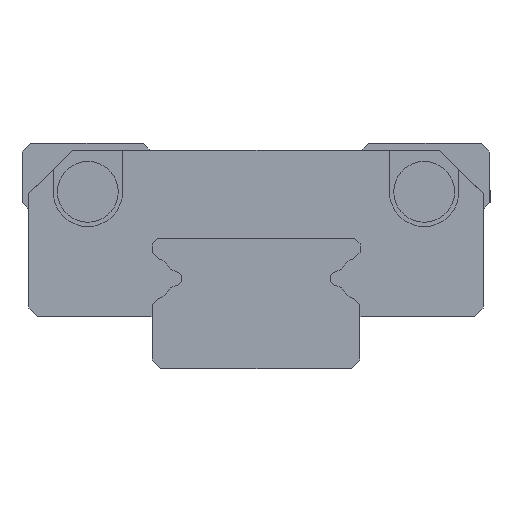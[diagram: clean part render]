
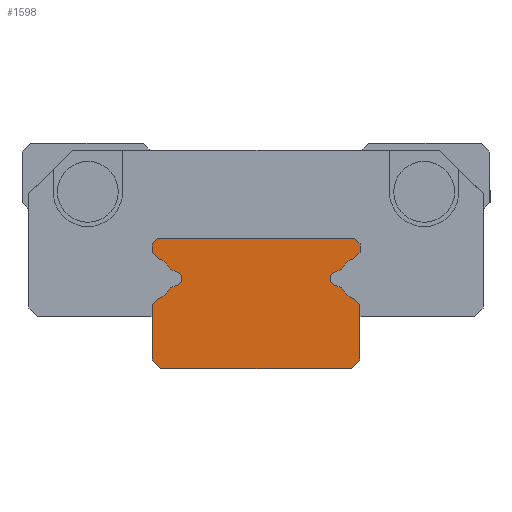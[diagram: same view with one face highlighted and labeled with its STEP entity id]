
A CAD part, left-side view. The second image highlights one B-rep face of the part: STEP entity #1598.
In plain terms, the highlighted planar face has unit normal (-1, 0, 0).
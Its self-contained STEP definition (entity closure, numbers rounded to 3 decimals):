
#758=CARTESIAN_POINT('',(0.0,6.,3.696));
#759=VERTEX_POINT('',#758);
#766=CARTESIAN_POINT('',(0.0,5.65,4.046));
#767=VERTEX_POINT('',#766);
#768=CARTESIAN_POINT('',(0.0,5.65,4.046));
#769=DIRECTION('',(0.0,0.707,-0.707));
#770=VECTOR('',#769,0.495);
#771=LINE('',#768,#770);
#772=EDGE_CURVE('',#767,#759,#771,.T.);
#796=CARTESIAN_POINT('',(0.0,6.,0.5));
#797=VERTEX_POINT('',#796);
#804=CARTESIAN_POINT('',(0.0,6.,3.696));
#805=DIRECTION('',(0.0,0.0,-1.0));
#806=VECTOR('',#805,3.196);
#807=LINE('',#804,#806);
#808=EDGE_CURVE('',#759,#797,#807,.T.);
#827=CARTESIAN_POINT('',(0.0,5.5,0.0));
#828=VERTEX_POINT('',#827);
#835=CARTESIAN_POINT('',(0.0,6.,0.5));
#836=DIRECTION('',(0.0,-0.707,-0.707));
#837=VECTOR('',#836,0.707);
#838=LINE('',#835,#837);
#839=EDGE_CURVE('',#797,#828,#838,.T.);
#858=CARTESIAN_POINT('',(0.0,-5.5,0.0));
#859=VERTEX_POINT('',#858);
#866=CARTESIAN_POINT('',(0.0,5.5,0.0));
#867=DIRECTION('',(0.0,-1.0,0.0));
#868=VECTOR('',#867,11.);
#869=LINE('',#866,#868);
#870=EDGE_CURVE('',#828,#859,#869,.T.);
#907=CARTESIAN_POINT('',(0.0,-6.,0.5));
#908=VERTEX_POINT('',#907);
#915=CARTESIAN_POINT('',(0.0,-5.5,0.0));
#916=DIRECTION('',(0.0,-0.707,0.707));
#917=VECTOR('',#916,0.707);
#918=LINE('',#915,#917);
#919=EDGE_CURVE('',#859,#908,#918,.T.);
#938=CARTESIAN_POINT('',(0.0,-6.,3.696));
#939=VERTEX_POINT('',#938);
#946=CARTESIAN_POINT('',(0.0,-6.,0.5));
#947=DIRECTION('',(0.0,0.0,1.0));
#948=VECTOR('',#947,3.196);
#949=LINE('',#946,#948);
#950=EDGE_CURVE('',#908,#939,#949,.T.);
#969=CARTESIAN_POINT('',(0.0,-5.65,4.046));
#970=VERTEX_POINT('',#969);
#977=CARTESIAN_POINT('',(0.0,-6.,3.696));
#978=DIRECTION('',(0.0,0.707,0.707));
#979=VECTOR('',#978,0.495);
#980=LINE('',#977,#979);
#981=EDGE_CURVE('',#939,#970,#980,.T.);
#1001=CARTESIAN_POINT('',(0.0,-4.925,4.674));
#1002=VERTEX_POINT('',#1001);
#1009=CARTESIAN_POINT('',(0.0,-6.101,5.301));
#1010=DIRECTION('',(1.0,0.0,0.0));
#1011=DIRECTION('',(0.0,0.338,-0.941));
#1012=AXIS2_PLACEMENT_3D('',#1009,#1010,#1011);
#1013=CIRCLE('',#1012,1.333);
#1014=EDGE_CURVE('',#970,#1002,#1013,.T.);
#1033=CARTESIAN_POINT('',(0.0,-4.526,4.827));
#1034=VERTEX_POINT('',#1033);
#1041=CARTESIAN_POINT('',(0.0,-4.925,4.674));
#1042=DIRECTION('',(0.0,0.934,0.358));
#1043=VECTOR('',#1042,0.426);
#1044=LINE('',#1041,#1043);
#1045=EDGE_CURVE('',#1002,#1034,#1044,.T.);
#1065=CARTESIAN_POINT('',(0.0,-4.527,5.573));
#1066=VERTEX_POINT('',#1065);
#1073=CARTESIAN_POINT('',(0.0,-4.67,5.2));
#1074=DIRECTION('',(1.,0.0,0.0));
#1075=DIRECTION('',(0.0,0.359,-0.933));
#1076=AXIS2_PLACEMENT_3D('',#1073,#1074,#1075);
#1077=CIRCLE('',#1076,0.4);
#1078=EDGE_CURVE('',#1034,#1066,#1077,.T.);
#1097=CARTESIAN_POINT('',(0.0,-4.925,5.726));
#1098=VERTEX_POINT('',#1097);
#1105=CARTESIAN_POINT('',(0.0,-4.527,5.573));
#1106=DIRECTION('',(0.0,-0.934,0.358));
#1107=VECTOR('',#1106,0.426);
#1108=LINE('',#1105,#1107);
#1109=EDGE_CURVE('',#1066,#1098,#1108,.T.);
#1129=CARTESIAN_POINT('',(0.0,-5.65,6.353));
#1130=VERTEX_POINT('',#1129);
#1137=CARTESIAN_POINT('',(0.0,-6.101,5.099));
#1138=DIRECTION('',(1.0,0.0,0.0));
#1139=DIRECTION('',(0.0,0.882,0.47));
#1140=AXIS2_PLACEMENT_3D('',#1137,#1138,#1139);
#1141=CIRCLE('',#1140,1.333);
#1142=EDGE_CURVE('',#1098,#1130,#1141,.T.);
#1161=CARTESIAN_POINT('',(0.0,-6.,6.704));
#1162=VERTEX_POINT('',#1161);
#1169=CARTESIAN_POINT('',(0.0,-5.65,6.353));
#1170=DIRECTION('',(0.0,-0.707,0.707));
#1171=VECTOR('',#1170,0.495);
#1172=LINE('',#1169,#1171);
#1173=EDGE_CURVE('',#1130,#1162,#1172,.T.);
#1192=CARTESIAN_POINT('',(0.0,-6.,7.2));
#1193=VERTEX_POINT('',#1192);
#1200=CARTESIAN_POINT('',(0.0,-6.,6.704));
#1201=DIRECTION('',(0.0,0.0,1.0));
#1202=VECTOR('',#1201,0.496);
#1203=LINE('',#1200,#1202);
#1204=EDGE_CURVE('',#1162,#1193,#1203,.T.);
#1223=CARTESIAN_POINT('',(0.0,-5.7,7.5));
#1224=VERTEX_POINT('',#1223);
#1231=CARTESIAN_POINT('',(0.0,-6.,7.2));
#1232=DIRECTION('',(0.0,0.707,0.707));
#1233=VECTOR('',#1232,0.424);
#1234=LINE('',#1231,#1233);
#1235=EDGE_CURVE('',#1193,#1224,#1234,.T.);
#1254=CARTESIAN_POINT('',(0.0,5.7,7.5));
#1255=VERTEX_POINT('',#1254);
#1262=CARTESIAN_POINT('',(0.0,-5.7,7.5));
#1263=DIRECTION('',(0.0,1.0,0.0));
#1264=VECTOR('',#1263,11.4);
#1265=LINE('',#1262,#1264);
#1266=EDGE_CURVE('',#1224,#1255,#1265,.T.);
#1303=CARTESIAN_POINT('',(0.0,6.,7.2));
#1304=VERTEX_POINT('',#1303);
#1311=CARTESIAN_POINT('',(0.0,5.7,7.5));
#1312=DIRECTION('',(0.0,0.707,-0.707));
#1313=VECTOR('',#1312,0.424);
#1314=LINE('',#1311,#1313);
#1315=EDGE_CURVE('',#1255,#1304,#1314,.T.);
#1334=CARTESIAN_POINT('',(0.0,6.,6.704));
#1335=VERTEX_POINT('',#1334);
#1342=CARTESIAN_POINT('',(0.0,6.,7.2));
#1343=DIRECTION('',(0.0,0.0,-1.0));
#1344=VECTOR('',#1343,0.496);
#1345=LINE('',#1342,#1344);
#1346=EDGE_CURVE('',#1304,#1335,#1345,.T.);
#1365=CARTESIAN_POINT('',(0.0,5.65,6.353));
#1366=VERTEX_POINT('',#1365);
#1373=CARTESIAN_POINT('',(0.0,6.,6.704));
#1374=DIRECTION('',(0.0,-0.707,-0.707));
#1375=VECTOR('',#1374,0.495);
#1376=LINE('',#1373,#1375);
#1377=EDGE_CURVE('',#1335,#1366,#1376,.T.);
#1397=CARTESIAN_POINT('',(0.0,4.925,5.726));
#1398=VERTEX_POINT('',#1397);
#1405=CARTESIAN_POINT('',(0.0,6.101,5.099));
#1406=DIRECTION('',(1.0,0.0,0.0));
#1407=DIRECTION('',(0.0,-0.338,0.941));
#1408=AXIS2_PLACEMENT_3D('',#1405,#1406,#1407);
#1409=CIRCLE('',#1408,1.333);
#1410=EDGE_CURVE('',#1366,#1398,#1409,.T.);
#1429=CARTESIAN_POINT('',(0.0,4.526,5.573));
#1430=VERTEX_POINT('',#1429);
#1437=CARTESIAN_POINT('',(0.0,4.925,5.726));
#1438=DIRECTION('',(0.0,-0.934,-0.358));
#1439=VECTOR('',#1438,0.426);
#1440=LINE('',#1437,#1439);
#1441=EDGE_CURVE('',#1398,#1430,#1440,.T.);
#1461=CARTESIAN_POINT('',(0.0,4.526,4.827));
#1462=VERTEX_POINT('',#1461);
#1469=CARTESIAN_POINT('',(0.0,4.67,5.2));
#1470=DIRECTION('',(1.,0.0,0.0));
#1471=DIRECTION('',(0.0,-0.359,0.933));
#1472=AXIS2_PLACEMENT_3D('',#1469,#1470,#1471);
#1473=CIRCLE('',#1472,0.4);
#1474=EDGE_CURVE('',#1430,#1462,#1473,.T.);
#1493=CARTESIAN_POINT('',(0.0,4.925,4.674));
#1494=VERTEX_POINT('',#1493);
#1501=CARTESIAN_POINT('',(0.0,4.526,4.827));
#1502=DIRECTION('',(0.0,0.934,-0.358));
#1503=VECTOR('',#1502,0.426);
#1504=LINE('',#1501,#1503);
#1505=EDGE_CURVE('',#1462,#1494,#1504,.T.);
#1524=CARTESIAN_POINT('',(0.0,6.101,5.301));
#1525=DIRECTION('',(1.0,0.0,0.0));
#1526=DIRECTION('',(0.0,-0.883,-0.47));
#1527=AXIS2_PLACEMENT_3D('',#1524,#1525,#1526);
#1528=CIRCLE('',#1527,1.333);
#1529=EDGE_CURVE('',#1494,#767,#1528,.T.);
#1567=CARTESIAN_POINT('',(0.0,0.,3.895));
#1568=DIRECTION('',(1.0,0.0,0.0));
#1569=DIRECTION('',(0.0,0.0,-1.0));
#1570=AXIS2_PLACEMENT_3D('',#1567,#1568,#1569);
#1571=PLANE('',#1570);
#1572=ORIENTED_EDGE('',*,*,#1529,.T.);
#1573=ORIENTED_EDGE('',*,*,#772,.T.);
#1574=ORIENTED_EDGE('',*,*,#808,.T.);
#1575=ORIENTED_EDGE('',*,*,#839,.T.);
#1576=ORIENTED_EDGE('',*,*,#870,.T.);
#1577=ORIENTED_EDGE('',*,*,#919,.T.);
#1578=ORIENTED_EDGE('',*,*,#950,.T.);
#1579=ORIENTED_EDGE('',*,*,#981,.T.);
#1580=ORIENTED_EDGE('',*,*,#1014,.T.);
#1581=ORIENTED_EDGE('',*,*,#1045,.T.);
#1582=ORIENTED_EDGE('',*,*,#1078,.T.);
#1583=ORIENTED_EDGE('',*,*,#1109,.T.);
#1584=ORIENTED_EDGE('',*,*,#1142,.T.);
#1585=ORIENTED_EDGE('',*,*,#1173,.T.);
#1586=ORIENTED_EDGE('',*,*,#1204,.T.);
#1587=ORIENTED_EDGE('',*,*,#1235,.T.);
#1588=ORIENTED_EDGE('',*,*,#1266,.T.);
#1589=ORIENTED_EDGE('',*,*,#1315,.T.);
#1590=ORIENTED_EDGE('',*,*,#1346,.T.);
#1591=ORIENTED_EDGE('',*,*,#1377,.T.);
#1592=ORIENTED_EDGE('',*,*,#1410,.T.);
#1593=ORIENTED_EDGE('',*,*,#1441,.T.);
#1594=ORIENTED_EDGE('',*,*,#1474,.T.);
#1595=ORIENTED_EDGE('',*,*,#1505,.T.);
#1596=EDGE_LOOP('',(#1572,#1573,#1574,#1575,#1576,#1577,#1578,#1579,#1580,#1581,#1582,#1583,#1584,#1585,#1586,#1587,#1588,#1589,#1590,#1591,#1592,#1593,#1594,#1595));
#1597=FACE_OUTER_BOUND('',#1596,.T.);
#1598=ADVANCED_FACE('',(#1597),#1571,.F.);
